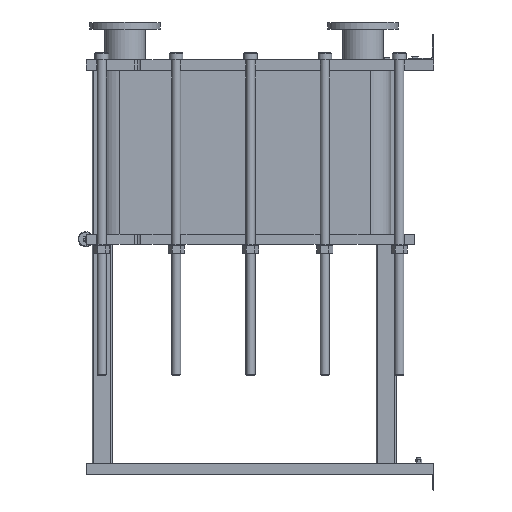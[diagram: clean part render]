
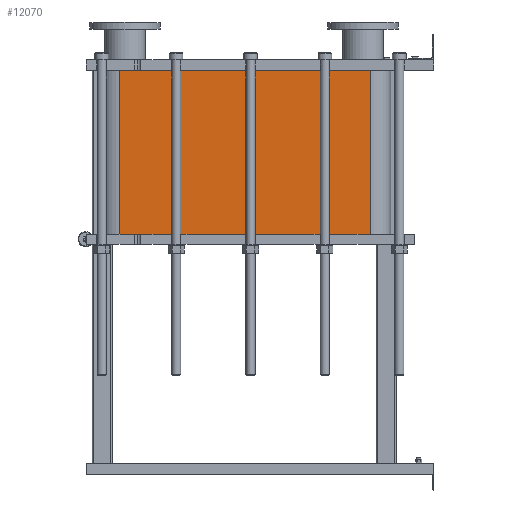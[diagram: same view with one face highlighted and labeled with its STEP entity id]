
A CAD part, left-side view. The second image highlights one B-rep face of the part: STEP entity #12070.
In plain terms, the highlighted planar face has unit normal (-1, 0, 0).
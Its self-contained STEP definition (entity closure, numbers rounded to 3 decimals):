
#1064=LINE('',#21140,#2164);
#1065=LINE('',#21144,#2165);
#1066=LINE('',#21146,#2166);
#1067=LINE('',#21147,#2167);
#2164=VECTOR('',#15790,10.);
#2165=VECTOR('',#15795,10.);
#2166=VECTOR('',#15796,10.);
#2167=VECTOR('',#15797,10.);
#3304=FACE_OUTER_BOUND('',#4091,.T.);
#4091=EDGE_LOOP('',(#9793,#9794,#9795,#9796));
#5677=VERTEX_POINT('',#21137);
#5678=VERTEX_POINT('',#21139);
#5679=VERTEX_POINT('',#21143);
#5680=VERTEX_POINT('',#21145);
#7118=EDGE_CURVE('',#5678,#5677,#1064,.T.);
#7120=EDGE_CURVE('',#5677,#5679,#1065,.T.);
#7121=EDGE_CURVE('',#5680,#5679,#1066,.T.);
#7122=EDGE_CURVE('',#5680,#5678,#1067,.T.);
#9793=ORIENTED_EDGE('',*,*,#7120,.T.);
#9794=ORIENTED_EDGE('',*,*,#7121,.F.);
#9795=ORIENTED_EDGE('',*,*,#7122,.T.);
#9796=ORIENTED_EDGE('',*,*,#7118,.T.);
#11441=PLANE('',#13191);
#12070=ADVANCED_FACE('',(#3304),#11441,.T.);
#13191=AXIS2_PLACEMENT_3D('',#21142,#15793,#15794);
#15790=DIRECTION('',(0.,0.,-1.));
#15793=DIRECTION('center_axis',(-1.,0.,0.));
#15794=DIRECTION('ref_axis',(0.,1.,0.));
#15795=DIRECTION('',(0.,-1.,0.));
#15796=DIRECTION('',(0.,0.,-1.));
#15797=DIRECTION('',(0.,1.,0.));
#21137=CARTESIAN_POINT('',(-248.152,1243.818,-648.6));
#21139=CARTESIAN_POINT('',(-248.152,1243.818,0.));
#21140=CARTESIAN_POINT('',(-248.152,1243.818,0.));
#21142=CARTESIAN_POINT('Origin',(-248.152,251.818,0.));
#21143=CARTESIAN_POINT('',(-248.152,251.818,-648.6));
#21144=CARTESIAN_POINT('',(-248.152,499.818,-648.6));
#21145=CARTESIAN_POINT('',(-248.152,251.818,0.));
#21146=CARTESIAN_POINT('',(-248.152,251.818,0.));
#21147=CARTESIAN_POINT('',(-248.152,251.818,0.));
